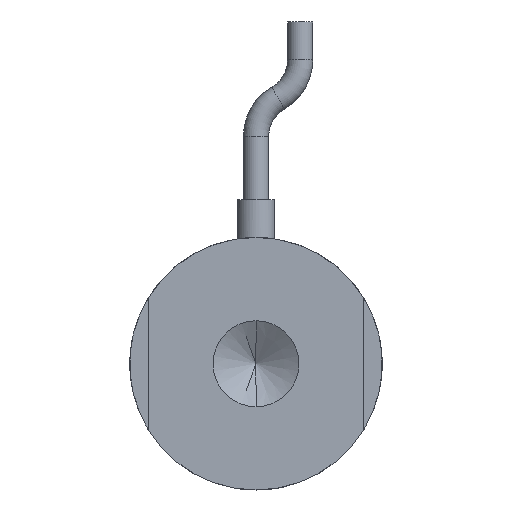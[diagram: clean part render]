
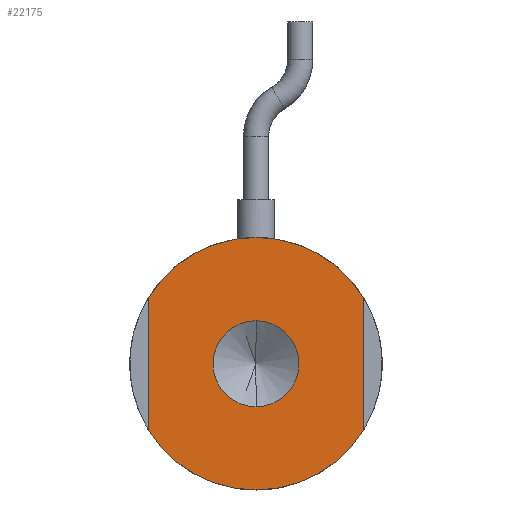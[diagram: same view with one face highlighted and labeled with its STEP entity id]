
A CAD part, front view. The second image highlights one B-rep face of the part: STEP entity #22175.
In plain terms, the highlighted planar face has unit normal (0, -1, 0).
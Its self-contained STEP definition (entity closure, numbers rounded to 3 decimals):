
#380 = VERTEX_POINT ( 'NONE', #18349 ) ;
#983 = DIRECTION ( 'NONE',  ( 0., -1., 0. ) ) ;
#1081 = VERTEX_POINT ( 'NONE', #15593 ) ;
#1168 = VECTOR ( 'NONE', #17491, 1000. ) ;
#2869 = LINE ( 'NONE', #6610, #22777 ) ;
#3071 = CARTESIAN_POINT ( 'NONE',  ( 0., 0., 0. ) ) ;
#3419 = AXIS2_PLACEMENT_3D ( 'NONE', #35773, #14815, #39306 ) ;
#3532 = CIRCLE ( 'NONE', #3419, 10. ) ;
#5069 = CARTESIAN_POINT ( 'NONE',  ( 0., 0., 0. ) ) ;
#5243 = VERTEX_POINT ( 'NONE', #38360 ) ;
#5418 = VERTEX_POINT ( 'NONE', #32186 ) ;
#6610 = CARTESIAN_POINT ( 'NONE',  ( -8.5, 0., 0. ) ) ;
#6631 = DIRECTION ( 'NONE',  ( 0., 0., 1. ) ) ;
#6835 = CARTESIAN_POINT ( 'NONE',  ( 0., 0., 0. ) ) ;
#8649 = DIRECTION ( 'NONE',  ( 0., 0., 1. ) ) ;
#8786 = EDGE_CURVE ( 'NONE', #19414, #5418, #22822, .T. ) ;
#9143 = AXIS2_PLACEMENT_3D ( 'NONE', #5069, #29689, #8649 ) ;
#10260 = VERTEX_POINT ( 'NONE', #30155 ) ;
#10424 = DIRECTION ( 'NONE',  ( 0., 0., -1. ) ) ;
#10568 = CARTESIAN_POINT ( 'NONE',  ( 0., 0., 3.4 ) ) ;
#10633 = LINE ( 'NONE', #38465, #1168 ) ;
#11039 = DIRECTION ( 'NONE',  ( 0., 1., 0. ) ) ;
#12146 = CIRCLE ( 'NONE', #20259, 10. ) ;
#13388 = PLANE ( 'NONE',  #13638 ) ;
#13638 = AXIS2_PLACEMENT_3D ( 'NONE', #34294, #16917, #41437 ) ;
#14316 = CIRCLE ( 'NONE', #34872, 3.4 ) ;
#14815 = DIRECTION ( 'NONE',  ( 0., 1., 0. ) ) ;
#15593 = CARTESIAN_POINT ( 'NONE',  ( -8.5, 0., -5.268 ) ) ;
#16065 = ORIENTED_EDGE ( 'NONE', *, *, #36159, .F. ) ;
#16773 = ORIENTED_EDGE ( 'NONE', *, *, #20028, .F. ) ;
#16917 = DIRECTION ( 'NONE',  ( 0., 1., 0. ) ) ;
#17491 = DIRECTION ( 'NONE',  ( 0., 0., -1. ) ) ;
#18349 = CARTESIAN_POINT ( 'NONE',  ( 0., 0., -10. ) ) ;
#18757 = VERTEX_POINT ( 'NONE', #10568 ) ;
#18933 = CARTESIAN_POINT ( 'NONE',  ( 0., 0., 10. ) ) ;
#19414 = VERTEX_POINT ( 'NONE', #18933 ) ;
#20028 = EDGE_CURVE ( 'NONE', #18757, #27167, #27436, .T. ) ;
#20259 = AXIS2_PLACEMENT_3D ( 'NONE', #3071, #27751, #6631 ) ;
#20618 = CIRCLE ( 'NONE', #30386, 10. ) ;
#21522 = ORIENTED_EDGE ( 'NONE', *, *, #26755, .F. ) ;
#22175 = ADVANCED_FACE ( 'NONE', ( #39380, #30058 ), #13388, .F. ) ;
#22181 = CARTESIAN_POINT ( 'NONE',  ( 0., 0., 0. ) ) ;
#22777 = VECTOR ( 'NONE', #31192, 1000. ) ;
#22783 = ORIENTED_EDGE ( 'NONE', *, *, #25212, .F. ) ;
#22822 = CIRCLE ( 'NONE', #9143, 10. ) ;
#25212 = EDGE_CURVE ( 'NONE', #380, #1081, #20618, .T. ) ;
#25389 = ORIENTED_EDGE ( 'NONE', *, *, #34831, .F. ) ;
#25699 = DIRECTION ( 'NONE',  ( 0., 0., -1. ) ) ;
#26755 = EDGE_CURVE ( 'NONE', #1081, #10260, #2869, .T. ) ;
#26869 = EDGE_LOOP ( 'NONE', ( #21522, #22783, #25389, #26880, #30157, #30466 ) ) ;
#26880 = ORIENTED_EDGE ( 'NONE', *, *, #27699, .F. ) ;
#27167 = VERTEX_POINT ( 'NONE', #40823 ) ;
#27436 = CIRCLE ( 'NONE', #38255, 3.4 ) ;
#27699 = EDGE_CURVE ( 'NONE', #5418, #5243, #10633, .T. ) ;
#27751 = DIRECTION ( 'NONE',  ( 0., 1., 0. ) ) ;
#29689 = DIRECTION ( 'NONE',  ( 0., 1., 0. ) ) ;
#30058 = FACE_OUTER_BOUND ( 'NONE', #26869, .T. ) ;
#30155 = CARTESIAN_POINT ( 'NONE',  ( -8.5, 0., 5.268 ) ) ;
#30157 = ORIENTED_EDGE ( 'NONE', *, *, #8786, .F. ) ;
#30386 = AXIS2_PLACEMENT_3D ( 'NONE', #32010, #11039, #35524 ) ;
#30466 = ORIENTED_EDGE ( 'NONE', *, *, #43191, .F. ) ;
#31192 = DIRECTION ( 'NONE',  ( 0., 0., 1. ) ) ;
#31408 = DIRECTION ( 'NONE',  ( 0., -1., 0. ) ) ;
#32010 = CARTESIAN_POINT ( 'NONE',  ( 0., 0., 0. ) ) ;
#32186 = CARTESIAN_POINT ( 'NONE',  ( 8.5, 0., 5.268 ) ) ;
#34294 = CARTESIAN_POINT ( 'NONE',  ( 0., 0., 0. ) ) ;
#34831 = EDGE_CURVE ( 'NONE', #5243, #380, #12146, .T. ) ;
#34872 = AXIS2_PLACEMENT_3D ( 'NONE', #22181, #983, #25699 ) ;
#35524 = DIRECTION ( 'NONE',  ( 0., 0., 1. ) ) ;
#35773 = CARTESIAN_POINT ( 'NONE',  ( 0., 0., 0. ) ) ;
#36159 = EDGE_CURVE ( 'NONE', #27167, #18757, #14316, .T. ) ;
#38255 = AXIS2_PLACEMENT_3D ( 'NONE', #6835, #31408, #10424 ) ;
#38360 = CARTESIAN_POINT ( 'NONE',  ( 8.5, 0., -5.268 ) ) ;
#38465 = CARTESIAN_POINT ( 'NONE',  ( 8.5, 0., 0. ) ) ;
#38761 = EDGE_LOOP ( 'NONE', ( #16065, #16773 ) ) ;
#39306 = DIRECTION ( 'NONE',  ( 0., 0., 1. ) ) ;
#39380 = FACE_BOUND ( 'NONE', #38761, .T. ) ;
#40823 = CARTESIAN_POINT ( 'NONE',  ( 0., 0., -3.4 ) ) ;
#41437 = DIRECTION ( 'NONE',  ( 0., 0., 1. ) ) ;
#43191 = EDGE_CURVE ( 'NONE', #10260, #19414, #3532, .T. ) ;
